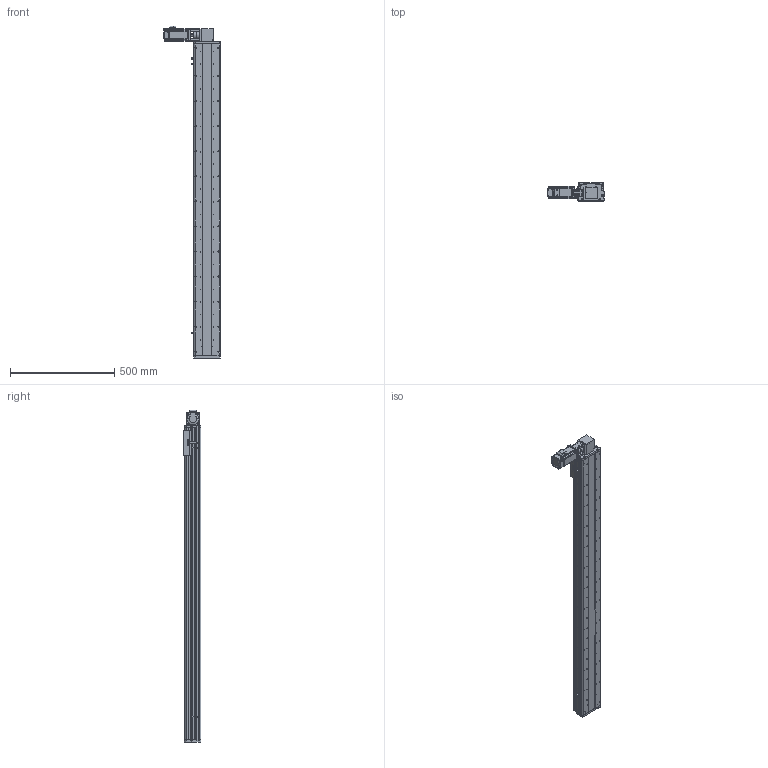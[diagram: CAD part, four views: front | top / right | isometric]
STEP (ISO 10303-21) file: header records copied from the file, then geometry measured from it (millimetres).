
FILE_DESCRIPTION (( 'STEP AP214' ), '1' );
FILE_NAME ('KSD125B-S1300-MRT-CM.STEP', '2017-08-07T07:42:35', ( '微软用户' ), ( '微软中国' ), 'SwSTEP 2.0', 'SolidWorks 2014', '' );
FILE_SCHEMA (( 'AUTOMOTIVE_DESIGN' ));
Length unit declared in the file: millimetre
Products named in the file (16): 前端板-125宽模组同步带; 125模组同步带-尾端板1; KSD125模组同步带-滑动座1; KSD125B-S1300-MRT-CM; KSD125模组1300行程同步带-防尘盖; 125模组1300行程同步带-底板; MHMD042G1CA_2_03; KSD125模组同步带-防撞垫2; CS-34X32-10X14; 100遵鎮湛假蚾啣1 ; 覜茼え68遵圉猾敕; U倰嫖萇假蚾璃; U倰嫖萇EEㄜSX672; KSD125模组同步带-防撞垫1; 100宽安装板同步带带电机座400W,86; 100宽马达安装板同步带右
Assembly tree (19 placements, depth 2):
  KSD125B-S1300-MRT-CM
    KSD125模组同步带-滑动座1
    125模组同步带-尾端板1
    前端板-125宽模组同步带
    100宽马达安装板同步带右
    100宽安装板同步带带电机座400W,86
    KSD125模组同步带-防撞垫1
    U倰嫖萇EEㄜSX672  x3
    U倰嫖萇假蚾璃  x3
    覜茼え68遵圉猾敕
    100遵鎮湛假蚾啣1 
    CS-34X32-10X14
    KSD125模组同步带-防撞垫2
    MHMD042G1CA_2_03
    125模组1300行程同步带-底板
    KSD125模组1300行程同步带-防尘盖
Bounding box: 269 x 86 x 1589 mm (x, y, z)
Volume: 4709649.4 mm3; surface area: 1540602.2 mm2
Topology: 18 solids, 21 shells, 1758 faces, 5056 edges, 3336 vertices
Faces by surface type: cylinder 945, plane 710, cone 81, bspline 22
Entity records: 62324 total; most frequent: CARTESIAN_POINT 12564, DIRECTION 9131, ORIENTED_EDGE 8632, EDGE_CURVE 4394, AXIS2_PLACEMENT_3D 3415, VERTEX_POINT 2928, VECTOR 2301, LINE 2301
